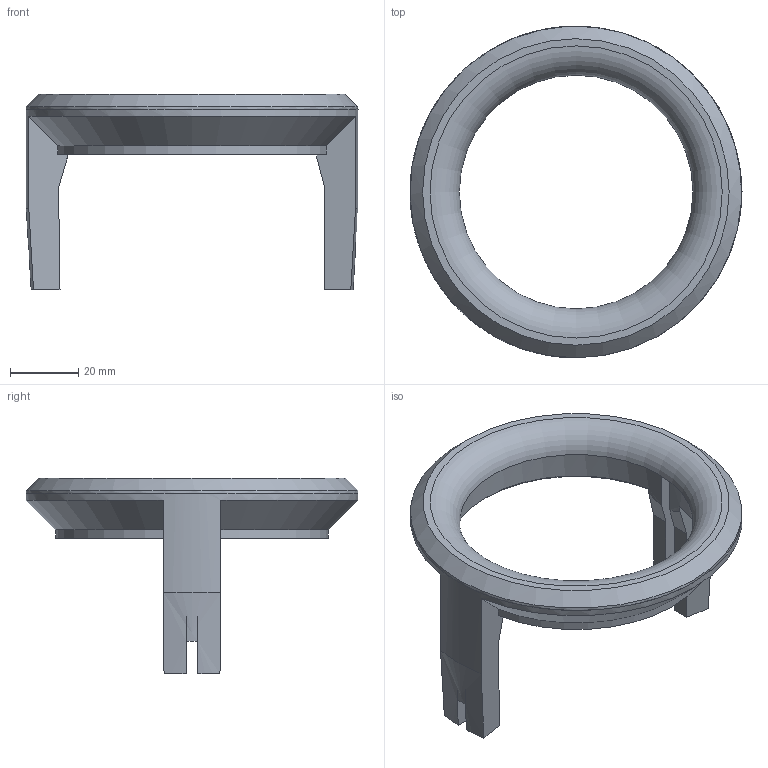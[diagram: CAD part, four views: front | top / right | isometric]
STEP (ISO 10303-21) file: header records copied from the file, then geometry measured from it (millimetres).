
FILE_DESCRIPTION(/* description */ (''),/* implementation_level */ '2;1');
FILE_NAME(/* name */ 'F:/F-Shared-Ryzen7 - PROD/F-OWL-PLANES/BAE Hawk T1 70mm EDF/OWLplane OWL BAE Hawk T1 70mm EDF v1.0/OWL BAE Hawk T1 70mm - SUPPORT/EDF-BRACKET-70mm/STEP/EDF-70 FMS-Motor- Bracket.step',/* time_stamp */ '2022-07-11T17:46:47+07:00',/* author */ (''),/* organization */ (''),/* preprocessor_version */ 'ST-DEVELOPER v19',/* originating_system */ 'Autodesk Translation Framework v11.7.0.108',/* authorisation */ '');
FILE_SCHEMA (('AP203_CONFIGURATION_CONTROLLED_3D_DESIGN_OF_MECHANICAL_PARTS_AND_ASSEMBLIES_MIM_LF { 1 0 10303 203 3 1 4 }','AUTOMOTIVE_DESIGN { 1 0 10303 214 3 1 1 }','MODEL_BASED_INTEGRATED_MANUFACTURING_SCHEMA'));
Length unit declared in the file: millimetre
Products named in the file (1): EDF-70 FMS-Motor- Bracket
Bounding box: 97.56 x 97.48 x 57.56 mm (x, y, z)
Volume: 47373.8 mm3; surface area: 19616.8 mm2
Topology: 1 solids, 1 shells, 42 faces, 118 edges, 78 vertices
Faces by surface type: plane 26, cylinder 8, cone 7, torus 1
Full cylindrical faces by diameter (mm): 97.48 x2
Entity records: 1398 total; most frequent: CARTESIAN_POINT 247, DIRECTION 239, ORIENTED_EDGE 236, EDGE_CURVE 118, AXIS2_PLACEMENT_3D 82, VERTEX_POINT 78, LINE 75, VECTOR 75
